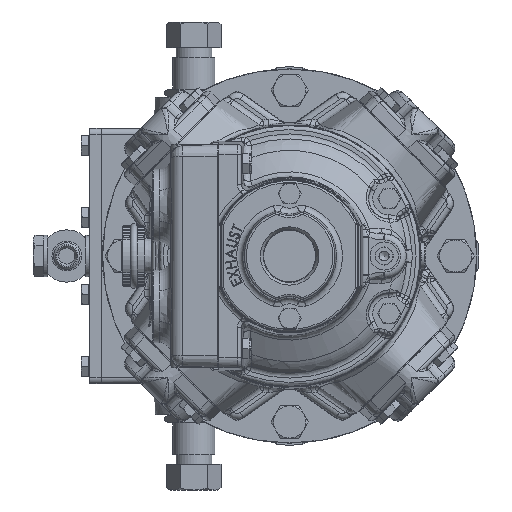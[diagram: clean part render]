
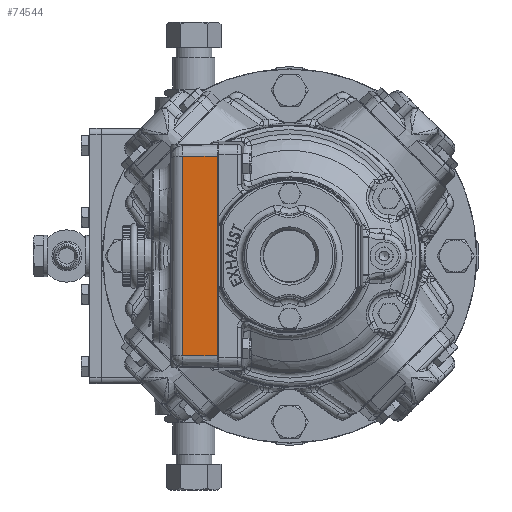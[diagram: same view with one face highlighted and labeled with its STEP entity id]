
A CAD part, left-side view. The second image highlights one B-rep face of the part: STEP entity #74544.
In plain terms, the highlighted planar face has unit normal (-0.999, 0.035, 0).
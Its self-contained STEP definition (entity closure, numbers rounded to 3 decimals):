
#12685 = LINE ( 'NONE', #25766, #89089 ) ;
#12736 = VECTOR ( 'NONE', #26499, 1000. ) ;
#18760 = FACE_OUTER_BOUND ( 'NONE', #170516, .T. ) ;
#23925 = DIRECTION ( 'NONE',  ( -0.035, -0.999, 0. ) ) ;
#25766 = CARTESIAN_POINT ( 'NONE',  ( -131.2, 34.5, -49.5 ) ) ;
#25958 = VERTEX_POINT ( 'NONE', #112299 ) ;
#26499 = DIRECTION ( 'NONE',  ( 0., 0., 1. ) ) ;
#29294 = EDGE_CURVE ( 'NONE', #118254, #25958, #137737, .T. ) ;
#43517 = DIRECTION ( 'NONE',  ( -0.035, -0.999, 0. ) ) ;
#43643 = CARTESIAN_POINT ( 'NONE',  ( -130.547, 53.209, 49.5 ) ) ;
#51551 = CARTESIAN_POINT ( 'NONE',  ( -131.148, 36., -49.5 ) ) ;
#56516 = VECTOR ( 'NONE', #111703, 1000. ) ;
#62812 = VERTEX_POINT ( 'NONE', #51551 ) ;
#68020 = CARTESIAN_POINT ( 'NONE',  ( -131.148, 36., -49.5 ) ) ;
#71132 = EDGE_CURVE ( 'NONE', #25958, #62812, #12685, .T. ) ;
#71607 = PLANE ( 'NONE',  #125585 ) ;
#74544 = ADVANCED_FACE ( 'NONE', ( #18760 ), #71607, .T. ) ;
#83080 = CARTESIAN_POINT ( 'NONE',  ( -130.547, 53.209, -49.5 ) ) ;
#86266 = ORIENTED_EDGE ( 'NONE', *, *, #161901, .F. ) ;
#89089 = VECTOR ( 'NONE', #141899, 1000. ) ;
#90351 = ORIENTED_EDGE ( 'NONE', *, *, #71132, .T. ) ;
#100629 = VERTEX_POINT ( 'NONE', #155807 ) ;
#107874 = LINE ( 'NONE', #68020, #12736 ) ;
#110219 = CARTESIAN_POINT ( 'NONE',  ( -131.2, 34.5, 49.5 ) ) ;
#111703 = DIRECTION ( 'NONE',  ( 0., 0., -1. ) ) ;
#112299 = CARTESIAN_POINT ( 'NONE',  ( -130.547, 53.209, -49.5 ) ) ;
#118254 = VERTEX_POINT ( 'NONE', #43643 ) ;
#125585 = AXIS2_PLACEMENT_3D ( 'NONE', #168653, #130449, #23925 ) ;
#130449 = DIRECTION ( 'NONE',  ( -0.999, 0.035, 0. ) ) ;
#137737 = LINE ( 'NONE', #83080, #56516 ) ;
#141899 = DIRECTION ( 'NONE',  ( -0.035, -0.999, 0. ) ) ;
#142508 = EDGE_CURVE ( 'NONE', #62812, #100629, #107874, .T. ) ;
#146337 = ORIENTED_EDGE ( 'NONE', *, *, #142508, .T. ) ;
#151810 = LINE ( 'NONE', #110219, #159849 ) ;
#155807 = CARTESIAN_POINT ( 'NONE',  ( -131.148, 36., 49.5 ) ) ;
#159849 = VECTOR ( 'NONE', #43517, 1000. ) ;
#161901 = EDGE_CURVE ( 'NONE', #118254, #100629, #151810, .T. ) ;
#165028 = ORIENTED_EDGE ( 'NONE', *, *, #29294, .T. ) ;
#168653 = CARTESIAN_POINT ( 'NONE',  ( -131.2, 34.5, -49.5 ) ) ;
#170516 = EDGE_LOOP ( 'NONE', ( #90351, #146337, #86266, #165028 ) ) ;
